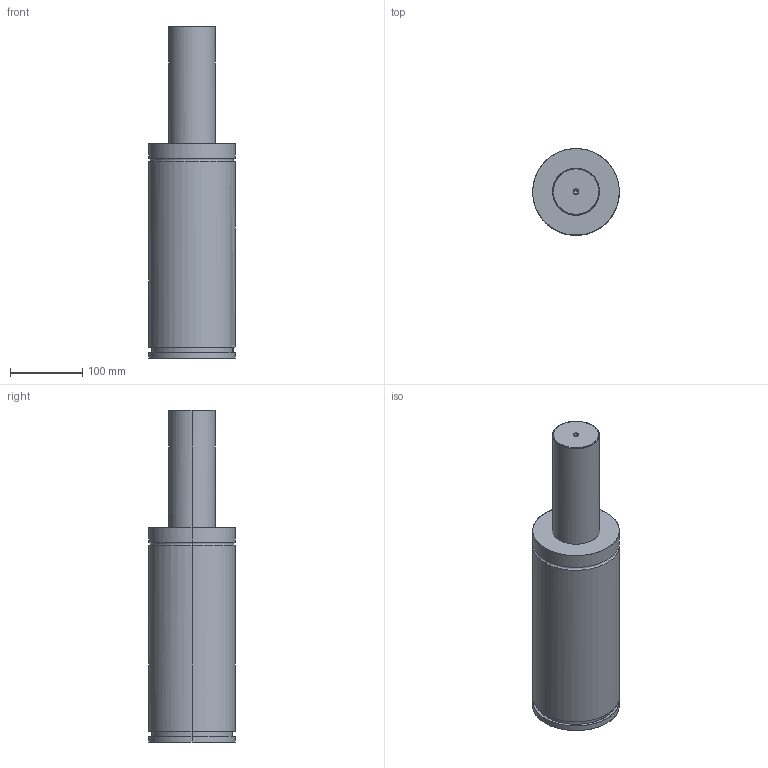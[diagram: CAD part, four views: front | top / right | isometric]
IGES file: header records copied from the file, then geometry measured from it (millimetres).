
Global section: file name: E:\UnigraphicsGraphicData\MISUMI_PRESS-PARTS\IGES\3d_gse120-160_03864_r00.igs; native system: NX V5.0; preprocessor: UGS NX IGES V5.0; author: MISUMI; date: 20110105.160751; units: millimetre
Bounding box: 120 x 120 x 460 mm (x, y, z)
Surface area: 174814.4 mm2 (no closed solid volume)
Topology: 0 solids, 0 shells, 75 faces, 604 edges, 602 vertices
Faces by surface type: bspline 75
